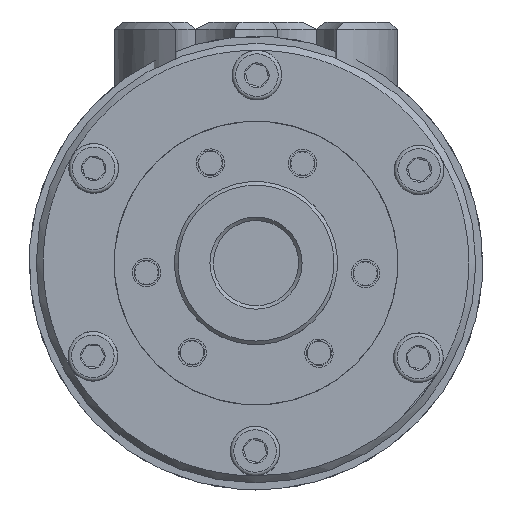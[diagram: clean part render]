
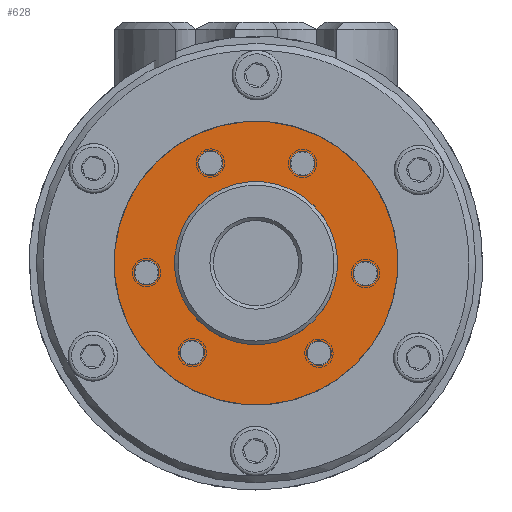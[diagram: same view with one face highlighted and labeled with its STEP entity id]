
A CAD part, left-side view. The second image highlights one B-rep face of the part: STEP entity #628.
In plain terms, the highlighted planar face has unit normal (-1, 0, 0) as drawn and (0, -1, 0) by its records, which use the part's own axes.
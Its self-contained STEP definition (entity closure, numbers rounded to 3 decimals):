
#628 = ADVANCED_FACE( '', ( #1244, #1245, #1246, #1247, #1248, #1249, #1250, #1251 ), #1252, .F. );
#1244 = FACE_OUTER_BOUND( '', #2361, .T. );
#1245 = FACE_BOUND( '', #2362, .T. );
#1246 = FACE_BOUND( '', #2363, .T. );
#1247 = FACE_BOUND( '', #2364, .T. );
#1248 = FACE_BOUND( '', #2365, .T. );
#1249 = FACE_BOUND( '', #2366, .T. );
#1250 = FACE_BOUND( '', #2367, .T. );
#1251 = FACE_BOUND( '', #2368, .T. );
#1252 = PLANE( '', #2369 );
#2361 = EDGE_LOOP( '', ( #4236 ) );
#2362 = EDGE_LOOP( '', ( #4237 ) );
#2363 = EDGE_LOOP( '', ( #4238 ) );
#2364 = EDGE_LOOP( '', ( #4239 ) );
#2365 = EDGE_LOOP( '', ( #4240 ) );
#2366 = EDGE_LOOP( '', ( #4241 ) );
#2367 = EDGE_LOOP( '', ( #4242 ) );
#2368 = EDGE_LOOP( '', ( #4243 ) );
#2369 = AXIS2_PLACEMENT_3D( '', #4244, #4245, #4246 );
#4236 = ORIENTED_EDGE( '', *, *, #6683, .T. );
#4237 = ORIENTED_EDGE( '', *, *, #6684, .F. );
#4238 = ORIENTED_EDGE( '', *, *, #6688, .F. );
#4239 = ORIENTED_EDGE( '', *, *, #6689, .F. );
#4240 = ORIENTED_EDGE( '', *, *, #6690, .F. );
#4241 = ORIENTED_EDGE( '', *, *, #6691, .F. );
#4242 = ORIENTED_EDGE( '', *, *, #6692, .F. );
#4243 = ORIENTED_EDGE( '', *, *, #6687, .F. );
#4244 = CARTESIAN_POINT( '', ( 0., 0., 20. ) );
#4245 = DIRECTION( '', ( 0., 1., 0. ) );
#4246 = DIRECTION( '', ( 1., 0., 0. ) );
#6683 = EDGE_CURVE( '', #7604, #7604, #7605, .T. );
#6684 = EDGE_CURVE( '', #7606, #7606, #7607, .T. );
#6687 = EDGE_CURVE( '', #7612, #7612, #7613, .T. );
#6688 = EDGE_CURVE( '', #7614, #7614, #7615, .T. );
#6689 = EDGE_CURVE( '', #7616, #7616, #7617, .T. );
#6690 = EDGE_CURVE( '', #7618, #7618, #7619, .T. );
#6691 = EDGE_CURVE( '', #7620, #7620, #7621, .T. );
#6692 = EDGE_CURVE( '', #7622, #7622, #7623, .T. );
#7604 = VERTEX_POINT( '', #9360 );
#7605 = CIRCLE( '', #9361, 20. );
#7606 = VERTEX_POINT( '', #9362 );
#7607 = CIRCLE( '', #9363, 1.65 );
#7612 = VERTEX_POINT( '', #9368 );
#7613 = CIRCLE( '', #9369, 11.5 );
#7614 = VERTEX_POINT( '', #9370 );
#7615 = CIRCLE( '', #9371, 1.65 );
#7616 = VERTEX_POINT( '', #9372 );
#7617 = CIRCLE( '', #9373, 1.65 );
#7618 = VERTEX_POINT( '', #9374 );
#7619 = CIRCLE( '', #9375, 1.65 );
#7620 = VERTEX_POINT( '', #9376 );
#7621 = CIRCLE( '', #9377, 1.65 );
#7622 = VERTEX_POINT( '', #9378 );
#7623 = CIRCLE( '', #9379, 1.65 );
#9360 = CARTESIAN_POINT( '', ( 0., 0., -20. ) );
#9361 = AXIS2_PLACEMENT_3D( '', #11569, #11570, #11571 );
#9362 = CARTESIAN_POINT( '', ( -6.021, 0., -13.174 ) );
#9363 = AXIS2_PLACEMENT_3D( '', #11572, #11573, #11574 );
#9368 = CARTESIAN_POINT( '', ( 0., 0., -11.5 ) );
#9369 = AXIS2_PLACEMENT_3D( '', #11581, #11582, #11583 );
#9370 = CARTESIAN_POINT( '', ( 6.925, 0., -11.994 ) );
#9371 = AXIS2_PLACEMENT_3D( '', #11584, #11585, #11586 );
#9372 = CARTESIAN_POINT( '', ( 14.42, 0., 1.372 ) );
#9373 = AXIS2_PLACEMENT_3D( '', #11587, #11588, #11589 );
#9374 = CARTESIAN_POINT( '', ( 6.925, 0., 11.994 ) );
#9375 = AXIS2_PLACEMENT_3D( '', #11590, #11591, #11592 );
#9376 = CARTESIAN_POINT( '', ( -8.398, 0., 11.802 ) );
#9377 = AXIS2_PLACEMENT_3D( '', #11593, #11594, #11595 );
#9378 = CARTESIAN_POINT( '', ( -13.85, 0., 0. ) );
#9379 = AXIS2_PLACEMENT_3D( '', #11596, #11597, #11598 );
#11569 = CARTESIAN_POINT( '', ( 0., 0., 0. ) );
#11570 = DIRECTION( '', ( 0., -1., 0. ) );
#11571 = DIRECTION( '', ( 0., 0., -1. ) );
#11572 = CARTESIAN_POINT( '', ( -5.196, 0., -14.603 ) );
#11573 = DIRECTION( '', ( 0., -1., 0. ) );
#11574 = DIRECTION( '', ( -0.5, 0., 0.866 ) );
#11581 = CARTESIAN_POINT( '', ( 0., 0., 0. ) );
#11582 = DIRECTION( '', ( 0., -1., 0. ) );
#11583 = DIRECTION( '', ( 0., 0., -1. ) );
#11584 = CARTESIAN_POINT( '', ( 7.75, 0., -13.423 ) );
#11585 = DIRECTION( '', ( 0., -1., 0. ) );
#11586 = DIRECTION( '', ( -0.5, 0., 0.866 ) );
#11587 = CARTESIAN_POINT( '', ( 15.245, 0., 2.801 ) );
#11588 = DIRECTION( '', ( 0., -1., 0. ) );
#11589 = DIRECTION( '', ( -0.5, 0., -0.866 ) );
#11590 = CARTESIAN_POINT( '', ( 7.75, 0., 13.423 ) );
#11591 = DIRECTION( '', ( 0., -1., 0. ) );
#11592 = DIRECTION( '', ( -0.5, 0., -0.866 ) );
#11593 = CARTESIAN_POINT( '', ( -10.048, 0., 11.802 ) );
#11594 = DIRECTION( '', ( 0., -1., 0. ) );
#11595 = DIRECTION( '', ( 1., 0., 0. ) );
#11596 = CARTESIAN_POINT( '', ( -15.5, 0., 0. ) );
#11597 = DIRECTION( '', ( 0., -1., 0. ) );
#11598 = DIRECTION( '', ( 1., 0., 0. ) );
